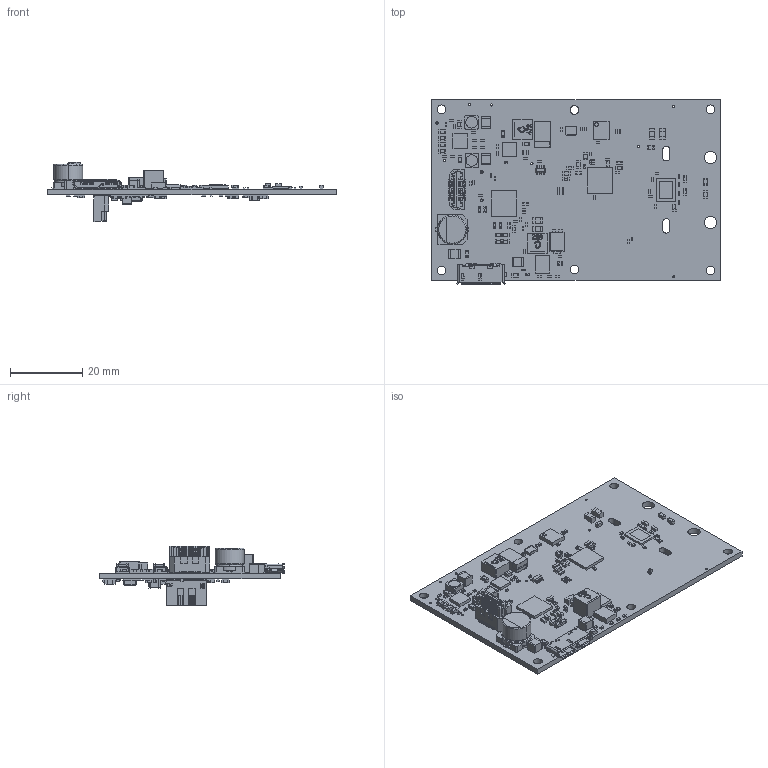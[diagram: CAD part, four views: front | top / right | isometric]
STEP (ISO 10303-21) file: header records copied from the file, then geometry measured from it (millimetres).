
FILE_DESCRIPTION(('Open CASCADE Model'),'2;1');
FILE_NAME('Open CASCADE Shape Model','2016-12-19T11:26:46',('Author'),( 'Open CASCADE'),'Open CASCADE STEP processor 6.8','Open CASCADE 6.8' ,'Unknown');
FILE_SCHEMA(('AUTOMOTIVE_DESIGN { 1 0 10303 214 1 1 1 1 }'));
Length unit declared in the file: millimetre
Products named in the file (300): PCB; Board; L17; 793208152; Extruded; 793208288; C90; 793213048; 793213184; C89; R21; 793207064; 793206928; 793206792; R53; R50; C88; 793207880; 793208016; C87; C86; 793207200; 793207336; 793207472; C85; 793207608; 793207744; C84; C83; C81; L12; C75; R42; R41; R23; U10; 1342706416; Cylinder; 1153716304; U8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
Assembly tree (779 placements, depth 4):
  PCB
    Board
    L17
      793208152  x2
        Extruded
      793208288
        Extruded
    C90
      793213048  x2
        Extruded
      793213184
        Extruded
    C89
      793213048  x2
        Extruded
      793213184
        Extruded
    R21
      793207064
        Extruded
      793206928
        Extruded
      793206792
        Extruded
    R53
      793207064
        Extruded
      793206928
        Extruded
      793206792
        Extruded
    R50
      793207064
        Extruded
      793206928
        Extruded
      793206792
        Extruded
    C88
      793207880  x2
        Extruded
      793208016
        Extruded
    C87
      793207064
        Extruded
      793206928
        Extruded
      793206792
        Extruded
    C86
      793207200
        Extruded
      793207336
        Extruded
      793207472
        Extruded
    C85
      793207608  x2
        Extruded
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Bounding box: 80 x 51.2 x 16.53 mm (x, y, z)
Volume: 8239.4 mm3; surface area: 14592.2 mm2
Topology: 588 solids, 588 shells, 8733 faces, 22359 edges, 14745 vertices
Faces by surface type: plane 6980, cylinder 1526, bspline 199, sphere 20, cone 8
Full cylindrical faces by diameter (mm): 0.4 x4, 0.6 x9, 0.8 x4, 1 x2, 2.4 x6, 3.2 x3, 3.4 x2
Entity records: 135953 total; most frequent: CARTESIAN_POINT 30605, ORIENTED_EDGE 19686, DIRECTION 19355, EDGE_CURVE 9843, LINE 7757, VECTOR 7757, VERTEX_POINT 6451, AXIS2_PLACEMENT_3D 5799
